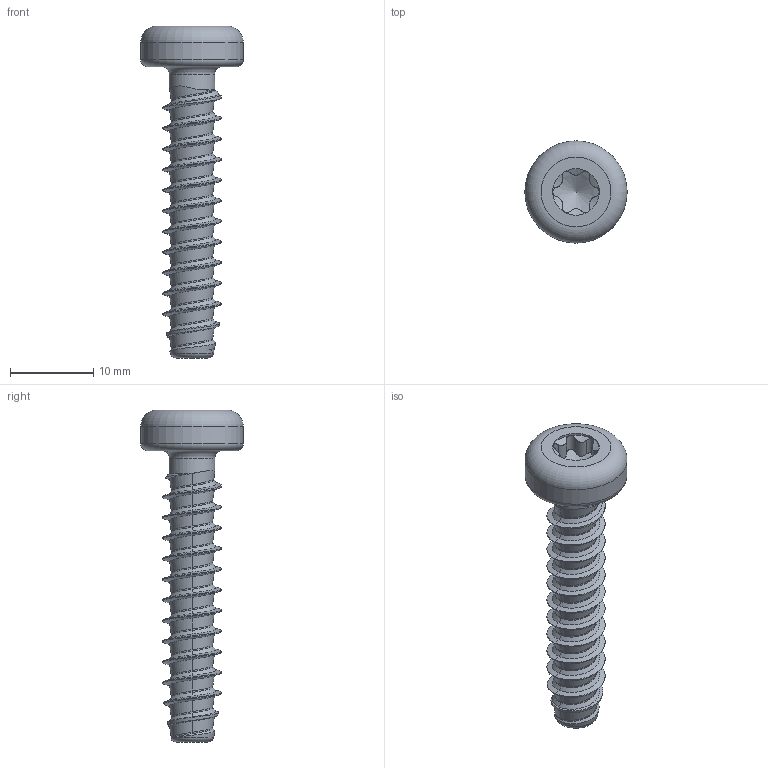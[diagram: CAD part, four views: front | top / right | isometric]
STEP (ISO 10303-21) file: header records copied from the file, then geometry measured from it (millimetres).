
FILE_DESCRIPTION(/* description */ (''),/* implementation_level */ '2;1');
FILE_NAME(/* name */ 'KN6039-STSplus-70x35-T30.step',/* time_stamp */ '2017-10-11T16:11:39+02:00',/* author */ (''),/* organization */ (''),/* preprocessor_version */ 'ST-DEVELOPER v16',/* originating_system */ 'SIEMENS PLM Software NX 10.0',/* authorisation */ '');
FILE_SCHEMA (('AUTOMOTIVE_DESIGN { 1 0 10303 214 3 1 1 1 }'));
Length unit declared in the file: millimetre
Products named in the file (1): KN6039-STSplus-70x35-T30
Bounding box: 12.3 x 12.3 x 39.9 mm (x, y, z)
Volume: 1316.7 mm3; surface area: 1293.7 mm2
Topology: 1 solids, 1 shells, 101 faces, 233 edges, 135 vertices
Faces by surface type: bspline 69, cylinder 16, cone 9, torus 4, plane 3
Full cylindrical faces by diameter (mm): 5.48 x1, 5.6 x1, 12.3 x1
Entity records: 7353 total; most frequent: CARTESIAN_POINT 5580, ORIENTED_EDGE 442, EDGE_CURVE 221, DIRECTION 178, VERTEX_POINT 132, B_SPLINE_CURVE_WITH_KNOTS 127, EDGE_LOOP 110, ADVANCED_FACE 101
